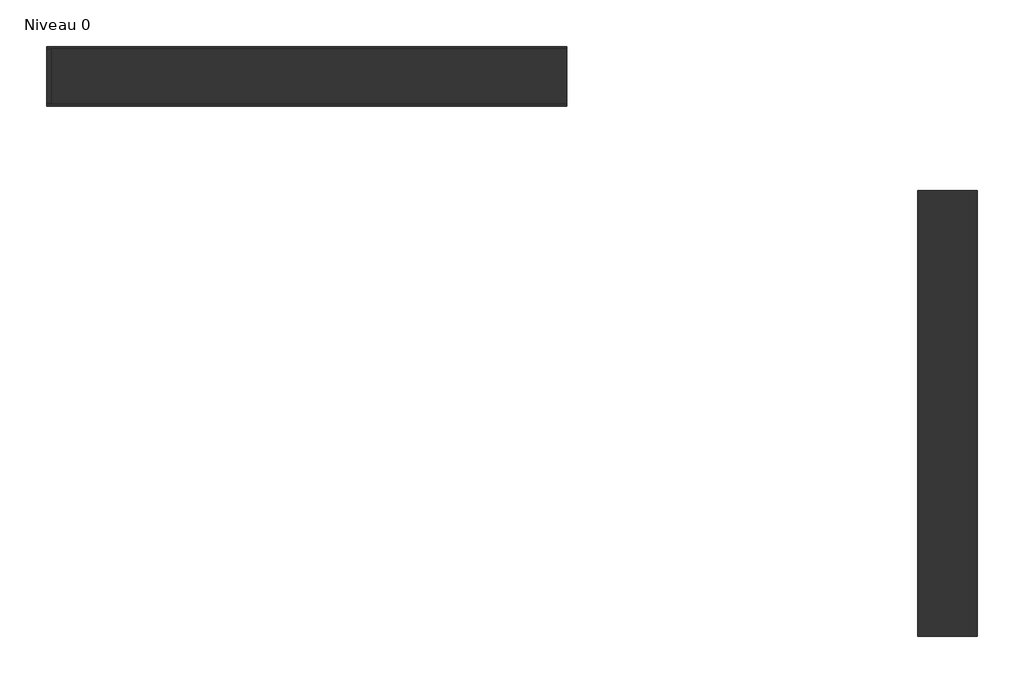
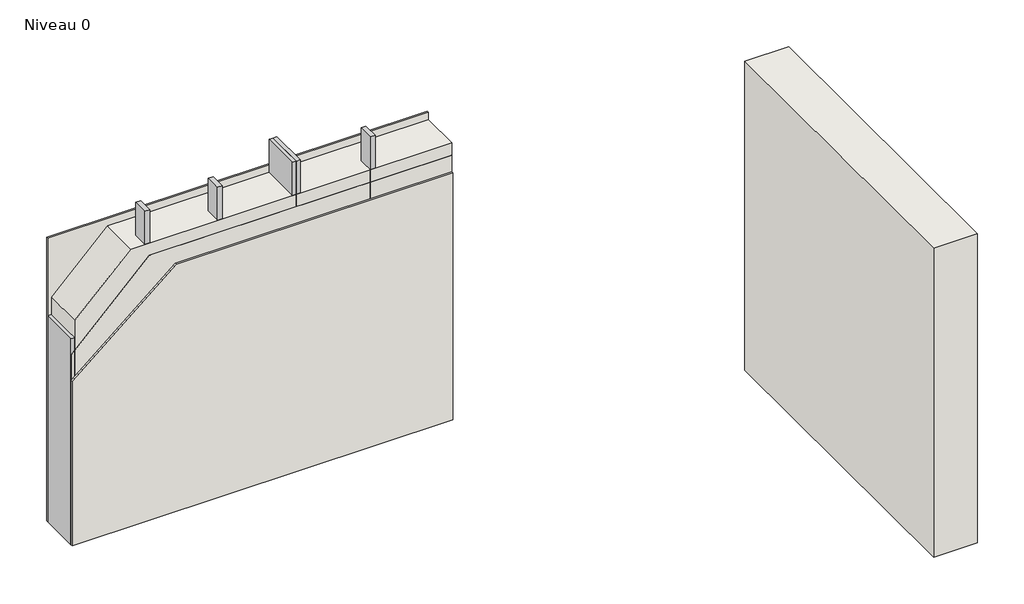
# One storey: 6 columns, 5 walls.
"""IFC4 building model written with IfcOpenShell, lengths in millimetres."""

import ifcopenshell
import ifcopenshell.guid

model = None  # the IFC model being written
_history = None  # IfcOwnerHistory: only IFC2X3 demands one
_inside = {}  # id of a spatial element -> (the spatial element, [elements in it])
_under = {}  # id of a project, library or spatial element -> (it, [spatial elements below it])
_declared = {}  # id of a project -> (the project, [libraries it declares])
_typed = {}  # id of a type object -> (the type object, [elements of that type])
_made_of = {}  # id of a material, layer set ... -> (it, [elements and type objects made of it])


def new_model(schema):
    """Start an empty IFC model of exactly this schema.

    Asked for "IFC4X3", IfcOpenShell would pick the latest addendum, in which some entities
    have other attributes; the version numbers below select the first issue.
    IFC2X3 requires an IfcOwnerHistory on every rooted entity: one is made here for all.
    """
    global model, _history
    if schema == "IFC4X3":
        model = ifcopenshell.file(schema_version=(4, 3, 0, 0))
    else:
        model = ifcopenshell.file(schema=schema)
    _inside.clear()
    _under.clear()
    _declared.clear()
    _typed.clear()
    _made_of.clear()
    _history = None
    if model.schema == "IFC2X3":
        org = make("IfcOrganization", Name="unknown")
        user = make(
            "IfcPersonAndOrganization",
            ThePerson=make("IfcPerson", FamilyName="unknown"),
            TheOrganization=org,
        )
        app = make(
            "IfcApplication",
            ApplicationDeveloper=org,
            Version="unknown",
            ApplicationFullName="unknown",
            ApplicationIdentifier="unknown",
        )
        _history = make(
            "IfcOwnerHistory",
            OwningUser=user,
            OwningApplication=app,
            ChangeAction="ADDED",
            CreationDate=0,
        )
    return model


def make(cls, **values):
    """One entity of the class cls with the attributes given. An attribute that is None is left unset."""
    return model.create_entity(
        cls, **{name: value for name, value in values.items() if value is not None}
    )


def rooted(cls, **values):
    """An entity with a GlobalId (a new one), such as an element, a storey or a relation."""
    return make(cls, GlobalId=ifcopenshell.guid.new(), OwnerHistory=_history, **values)


def si_unit(unit_type, name, prefix=None):
    """IfcSIUnit, for example si_unit("LENGTHUNIT", "METRE", prefix="MILLI")."""
    return make("IfcSIUnit", UnitType=unit_type, Prefix=prefix, Name=name)


def assignment(units):
    """IfcUnitAssignment: the units of a project."""
    return None if units is None else make("IfcUnitAssignment", Units=units)


def point(xyz):
    """IfcCartesianPoint."""
    return None if xyz is None else make("IfcCartesianPoint", Coordinates=xyz)


def direction(xyz):
    """IfcDirection."""
    return None if xyz is None else make("IfcDirection", DirectionRatios=xyz)


def frame(location, z_axis=None, x_axis=None):
    """IfcAxis2Placement3D, a coordinate frame: its origin and axes. An axis left out is left unset."""
    return make(
        "IfcAxis2Placement3D",
        Location=point(location),
        Axis=direction(z_axis),
        RefDirection=direction(x_axis),
    )


def origin():
    """The frame at (0, 0, 0) with its axes left unset."""
    return frame((0.0, 0.0, 0.0))


def origin_with_axes():
    """The frame at (0, 0, 0) with the z axis (0, 0, 1) and the x axis (1, 0, 0) written out."""
    return frame((0.0, 0.0, 0.0), z_axis=(0.0, 0.0, 1.0), x_axis=(1.0, 0.0, 0.0))


def place(relative_to, where):
    """IfcLocalPlacement: puts the frame where relative to a parent placement (None: the world)."""
    return make(
        "IfcLocalPlacement", PlacementRelTo=relative_to, RelativePlacement=where
    )


def context(
    kind, dimensions, precision=None, world=None, true_north=None, identifier=None
):
    """IfcGeometricRepresentationContext, for example the 3D "Model" context."""
    return make(
        "IfcGeometricRepresentationContext",
        ContextIdentifier=identifier,
        ContextType=kind,
        CoordinateSpaceDimension=dimensions,
        Precision=precision,
        WorldCoordinateSystem=world,
        TrueNorth=true_north,
    )


def project(units=None, contexts=None):
    """IfcProject with its units and contexts."""
    return rooted(
        "IfcProject",
        Name="project",
        RepresentationContexts=contexts,
        UnitsInContext=assignment(units),
    )


def spatial(cls, under=None, at=None, **own):
    """A site, building, storey or space (cls), placed at a placement, below another one or the project."""
    s = rooted(cls, ObjectPlacement=at, **own)
    if under is not None:
        _under.setdefault(under.id(), (under, []))[1].append(s)
    return s


def polyline(points):
    """IfcPolyline through the points."""
    return make("IfcPolyline", Points=[point(p) for p in points])


def outline(outer, holes=None, kind="AREA"):
    """IfcArbitraryClosedProfileDef: a profile drawn as a closed curve; with holes, ...WithVoids."""
    if holes is None:
        return make("IfcArbitraryClosedProfileDef", ProfileType=kind, OuterCurve=outer)
    return make(
        "IfcArbitraryProfileDefWithVoids",
        ProfileType=kind,
        OuterCurve=outer,
        InnerCurves=holes,
    )


def extrude(swept, where, along, depth):
    """IfcExtrudedAreaSolid: the profile swept, set in the frame where, extruded along a direction by depth."""
    return make(
        "IfcExtrudedAreaSolid",
        SweptArea=swept,
        Position=where,
        ExtrudedDirection=direction(along),
        Depth=depth,
    )


def shape(context_of_items, identifier, shape_type, items):
    """IfcShapeRepresentation: the items that make up one representation, for example the "Body"."""
    return make(
        "IfcShapeRepresentation",
        ContextOfItems=context_of_items,
        RepresentationIdentifier=identifier,
        RepresentationType=shape_type,
        Items=items,
    )


def source(mapping_origin, context_of_items, identifier, shape_type, items):
    """IfcRepresentationMap: a shape defined once, which mapped items show again and again."""
    return make(
        "IfcRepresentationMap",
        MappingOrigin=mapping_origin,
        MappedRepresentation=shape(context_of_items, identifier, shape_type, items),
    )


def transform(
    local_origin,
    x_axis=None,
    y_axis=None,
    z_axis=None,
    scale=None,
    scale2=None,
    scale3=None,
    uniform=True,
):
    """IfcCartesianTransformationOperator3D, or its non-uniform kind. x_axis, y_axis, z_axis: its Axis1, 2, 3."""
    if uniform:
        return make(
            "IfcCartesianTransformationOperator3D",
            Axis1=direction(x_axis),
            Axis2=direction(y_axis),
            LocalOrigin=point(local_origin),
            Scale=scale,
            Axis3=direction(z_axis),
        )
    return make(
        "IfcCartesianTransformationOperator3DnonUniform",
        Axis1=direction(x_axis),
        Axis2=direction(y_axis),
        LocalOrigin=point(local_origin),
        Scale=scale,
        Axis3=direction(z_axis),
        Scale2=scale2,
        Scale3=scale3,
    )


def mapped(mapping_source, mapping_target):
    """IfcMappedItem: shows the shape of a source again, moved by a transform."""
    return make(
        "IfcMappedItem", MappingSource=mapping_source, MappingTarget=mapping_target
    )


def made_of(thing, what):
    """Note that an element or type object is made of a material, layer set ...; save() writes the relation."""
    if what is not None:
        _made_of.setdefault(what.id(), (what, []))[1].append(thing)
    return thing


def element(
    cls,
    number,
    at=None,
    inside=None,
    cuts=None,
    type_object=None,
    material=None,
    context=None,
    identifier="Body",
    shape_type=None,
    held_by="IfcProductDefinitionShape",
    body=None,
    shapes=None,
    **own,
):
    """One element of the class cls, such as IfcWall. Its Tag is "e" and its number.

    at: its placement. inside: the storey or other place that contains it. cuts: it is an
    opening in that element (IfcRelVoidsElement). A single representation is given by context,
    identifier, shape_type and body (its items); several are given by shapes. held_by: the class
    of the entity that holds the representations. save() writes the other relations.
    """
    e = rooted(cls, Tag="e%d" % number, ObjectPlacement=at, **own)
    if body is not None:
        shapes = [shape(context, identifier, shape_type, body)]
    if shapes is not None:
        e.Representation = make(held_by, Representations=shapes)
    if inside is not None:
        _inside.setdefault(inside.id(), (inside, []))[1].append(e)
    if cuts is not None:
        rooted(
            "IfcRelVoidsElement", RelatingBuildingElement=cuts, RelatedOpeningElement=e
        )
    if type_object is not None:
        _typed.setdefault(type_object.id(), (type_object, []))[1].append(e)
    return made_of(e, material)


def aggregate(whole, parts):
    """IfcRelAggregates: a whole, such as a stair, and the parts it consists of."""
    return rooted("IfcRelAggregates", RelatingObject=whole, RelatedObjects=parts)


def save(model, path):
    """Write the relations noted so far, then the file.

    IfcRelAggregates (storeys below a building ...), IfcRelContainedInSpatialStructure (elements
    in a storey), IfcRelDefinesByType, IfcRelAssociatesMaterial and IfcRelDeclares: one each for
    every whole, place, type object, material and project.
    """
    for whole, parts in _under.values():
        aggregate(whole, parts)
    for where, things in _inside.values():
        rooted(
            "IfcRelContainedInSpatialStructure",
            RelatedElements=things,
            RelatingStructure=where,
        )
    for kind, things in _typed.values():
        rooted("IfcRelDefinesByType", RelatedObjects=things, RelatingType=kind)
    for what, things in _made_of.values():
        rooted("IfcRelAssociatesMaterial", RelatedObjects=things, RelatingMaterial=what)
    for by, libraries in _declared.values():
        rooted("IfcRelDeclares", RelatingContext=by, RelatedDefinitions=libraries)
    model.write(path)


def column_35x370_9cb7c830(model_context):
    return source(origin(), model_context, "Body", "SweptSolid", [
        extrude(outline(polyline([(17.5, 185.0), (17.5, -185.0), (-17.5, -185.0), (-17.5, 185.0), (17.5, 185.0)])), origin_with_axes(), (0.0, 0.0, 1.0), 3000.0),
    ])


def column_35x370_20ffd7be(model_context):
    return source(origin(), model_context, "Body", "SweptSolid", [
        extrude(outline(polyline([(17.5, 185.0), (17.5, -185.0), (-17.5, -185.0), (-17.5, 185.0), (17.5, 185.0)])), origin_with_axes(), (0.0, 0.0, 1.0), 2000.0),
    ])


model = new_model("IFC4")

# Units and contexts
model_context = context("Model", 3, world=origin())
ifc_project = project(units=[si_unit("LENGTHUNIT", "METRE", prefix="MILLI")], contexts=[model_context])

# Site, building, storey
site = spatial("IfcSite", under=ifc_project)
building = spatial("IfcBuilding", under=site)
storey = spatial("IfcBuildingStorey", under=building, Name="Niveau 0", Elevation=0.0)

# Columns
placement = place(None, origin())
column_35x370_shape = column_35x370_9cb7c830(model_context)
element("IfcColumn", 1, ObjectType="Poteau - Lamellé-collé - Espèces occidentales : 35x370", at=placement, inside=storey, context=model_context, shape_type="MappedRepresentation", body=[
    mapped(column_35x370_shape, transform((-3760.0543614, -1088.2584766, 0.0), x_axis=(1.0, 0.0, 0.0), y_axis=(0.0, 1.0, 0.0), z_axis=(0.0, 0.0, 1.0))),
])
element("IfcColumn", 2, ObjectType="Poteau - Lamellé-collé - Espèces occidentales : 35x370", at=placement, inside=storey, context=model_context, shape_type="MappedRepresentation", body=[
    mapped(column_35x370_shape, transform((-3725.0543614, -1088.2584766, 0.0), x_axis=(1.0, 0.0, 0.0), y_axis=(0.0, 1.0, 0.0), z_axis=(0.0, 0.0, 1.0))),
])
column_35x370_2_shape = column_35x370_20ffd7be(model_context)
element("IfcColumn", 3, ObjectType="Poteau - Lamellé-collé - Espèces occidentales : 35x370", at=placement, inside=storey, context=model_context, shape_type="MappedRepresentation", body=[
    mapped(column_35x370_2_shape, transform((-5795.0543614, -1088.2584766, 0.0), x_axis=(1.0, 0.0, 0.0), y_axis=(0.0, 1.0, 0.0), z_axis=(0.0, 0.0, 1.0))),
])
element("IfcColumn", 4, ObjectType="Bois - Bois de construction de dimensions courantes : 45x145", at=placement, inside=storey, context=model_context, shape_type="SweptSolid", body=[
    extrude(outline(polyline([(-5088.3876947, -1128.2584766), (-5088.3876947, -1273.2584766), (-5133.3876947, -1273.2584766), (-5133.3876947, -1128.2584766), (-5088.3876947, -1128.2584766)])), origin_with_axes(), (0.0, 0.0, 1.0), 3000.0),
])
element("IfcColumn", 5, ObjectType="Bois - Bois de construction de dimensions courantes : 45x145", at=placement, inside=storey, context=model_context, shape_type="SweptSolid", body=[
    extrude(outline(polyline([(-4421.721028, -1128.2584766), (-4421.721028, -1273.2584766), (-4466.721028, -1273.2584766), (-4466.721028, -1128.2584766), (-4421.721028, -1128.2584766)])), origin_with_axes(), (0.0, 0.0, 1.0), 3000.0),
])
element("IfcColumn", 6, ObjectType="Bois - Bois de construction de dimensions courantes : 45x145", at=placement, inside=storey, context=model_context, shape_type="SweptSolid", body=[
    extrude(outline(polyline([(-3018.3876947, -1128.2584766), (-3018.3876947, -1273.2584766), (-3063.3876947, -1273.2584766), (-3063.3876947, -1128.2584766), (-3018.3876947, -1128.2584766)])), origin_with_axes(), (0.0, 0.0, 1.0), 3000.0),
])

# Walls
element("IfcWall", 7, ObjectType="Botte de paille", at=placement, inside=storey, context=model_context, shape_type="SweptSolid", body=[
    extrude(outline(polyline([(0.0, -5777.5543614), (0.0, -2315.0543614), (2680.0, -2315.0543614), (2680.0, -5263.6243396), (2166.0699782, -5777.5543614), (0.0, -5777.5543614)])), frame((0.0, -1273.2584766, 0.0), z_axis=(0.0, 1.0, 0.0), x_axis=(0.0, 0.0, 1.0)), (0.0, 0.0, 1.0), 370.0),
])
element("IfcWall", 8, ObjectType="Pare pluie rigide et perspirant", at=placement, inside=storey, context=model_context, shape_type="SweptSolid", body=[
    extrude(outline(polyline([(-2315.0543614, -903.2584766), (-5812.5543614, -903.2584766), (-5812.5543614, -887.2584766), (-2315.0543614, -887.2584766), (-2315.0543614, -903.2584766)])), origin_with_axes(), (0.0, 0.0, 1.0), 2750.0),
])
element("IfcWall", 9, ObjectType="Frein vapeur", at=placement, inside=storey, context=model_context, shape_type="SweptSolid", body=[
    extrude(outline(polyline([(0.0, -5810.0543614), (0.0, -2315.0543614), (2560.0, -2315.0543614), (2560.0, -5093.826365), (1843.7720036, -5810.0543614), (0.0, -5810.0543614)])), frame((0.0, -1274.2584766, 0.0), z_axis=(0.0, 1.0, 0.0), x_axis=(0.0, 0.0, 1.0)), (0.0, 0.0, 1.0), 1.0),
])
element("IfcWall", 10, ObjectType="Parement", at=placement, inside=storey, context=model_context, shape_type="SweptSolid", body=[
    extrude(outline(polyline([(0.0, -5810.0543614), (0.0, -2315.0543614), (2400.0, -2315.0543614), (2400.0, -4855.5572758), (1599.0818475, -5810.0543614), (0.0, -5810.0543614)])), frame((0.0, -1290.2584766, 0.0), z_axis=(0.0, 1.0, 0.0), x_axis=(0.0, 0.0, 1.0)), (0.0, 0.0, 1.0), 16.0),
])
element("IfcWall", 11, ObjectType="SBW_06", at=placement, inside=storey, context=model_context, shape_type="SweptSolid", body=[
    extrude(outline(polyline([(42.6937453, -4855.5228881), (42.6937453, -1855.5228881), (445.6937453, -1855.5228881), (445.6937453, -4855.5228881), (42.6937453, -4855.5228881)])), origin_with_axes(), (0.0, 0.0, 1.0), 3000.0),
])

save(model, "model.ifc")
